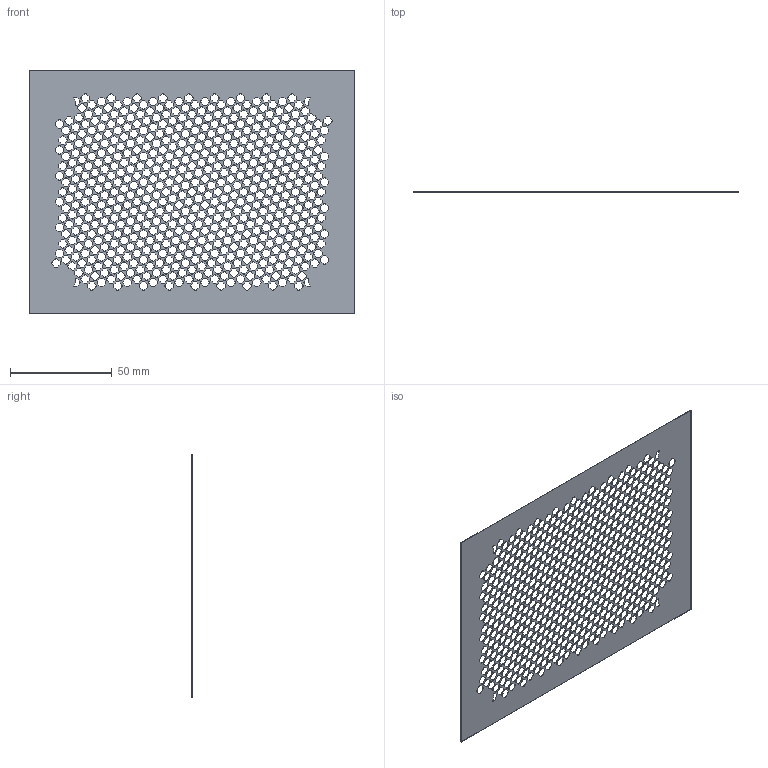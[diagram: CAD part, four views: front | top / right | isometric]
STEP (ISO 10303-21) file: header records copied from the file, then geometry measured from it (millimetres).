
FILE_DESCRIPTION (( 'STEP AP214' ), '1' );
FILE_NAME ('StencilMask(nHPD2).STEP', '2021-10-25T04:47:00', ( '' ), ( '' ), 'SwSTEP 2.0', 'SolidWorks 2019', '' );
FILE_SCHEMA (( 'AUTOMOTIVE_DESIGN' ));
Products named in the file (1): StencilMask(nHPD2)
Bounding box: 160 x 0.15 x 120 mm (x, y, z)
Volume: 1778.5 mm3; surface area: 24954.8 mm2
Topology: 1 solids, 1 shells, 5392 faces, 16170 edges, 10780 vertices
Faces by surface type: cylinder 2994, plane 2398
Entity records: 186312 total; most frequent: DIRECTION 32944, CARTESIAN_POINT 32343, ORIENTED_EDGE 32340, EDGE_CURVE 16170, AXIS2_PLACEMENT_3D 11381, VERTEX_POINT 10780, VECTOR 10182, LINE 10182
